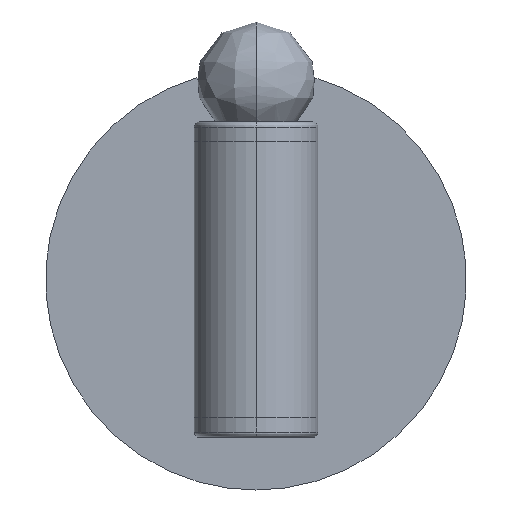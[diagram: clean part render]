
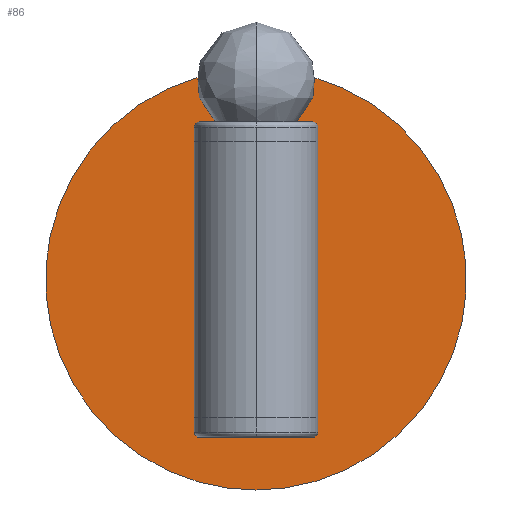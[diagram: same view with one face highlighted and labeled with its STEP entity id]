
A CAD part, front view. The second image highlights one B-rep face of the part: STEP entity #86.
In plain terms, the highlighted planar face has unit normal (0, -1, 0).
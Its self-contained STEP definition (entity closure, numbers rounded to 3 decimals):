
#86=ADVANCED_FACE('',(#211),#1998,.T.);
#211=FACE_OUTER_BOUND('',#336,.T.);
#336=EDGE_LOOP('',(#465,#466));
#465=ORIENTED_EDGE('',*,*,#1037,.T.);
#466=ORIENTED_EDGE('',*,*,#1040,.T.);
#1037=EDGE_CURVE('',#1778,#1780,#1425,.T.);
#1040=EDGE_CURVE('',#1780,#1778,#1428,.T.);
#1425=(
BOUNDED_CURVE()
B_SPLINE_CURVE(2,(#2210,#2211,#2212,#2213,#2214),.UNSPECIFIED.,.F.,.F.)
B_SPLINE_CURVE_WITH_KNOTS((3,2,3),(0.,125.664,251.327),
 .UNSPECIFIED.)
CURVE()
GEOMETRIC_REPRESENTATION_ITEM()
RATIONAL_B_SPLINE_CURVE((1.,0.707,1.,0.707,1.))
REPRESENTATION_ITEM('')
);
#1428=(
BOUNDED_CURVE()
B_SPLINE_CURVE(2,(#2222,#2223,#2224,#2225,#2226),.UNSPECIFIED.,.F.,.F.)
B_SPLINE_CURVE_WITH_KNOTS((3,2,3),(251.327,376.991,502.655),
 .UNSPECIFIED.)
CURVE()
GEOMETRIC_REPRESENTATION_ITEM()
RATIONAL_B_SPLINE_CURVE((1.,0.707,1.,0.707,1.))
REPRESENTATION_ITEM('')
);
#1778=VERTEX_POINT('',#2200);
#1780=VERTEX_POINT('',#2202);
#1998=PLANE('',#2140);
#2140=AXIS2_PLACEMENT_3D('',#2188,#2158,$);
#2158=DIRECTION('',(0.,-1.,0.));
#2188=CARTESIAN_POINT('',(-100.068,32.897,160.62));
#2200=CARTESIAN_POINT('',(-0.068,32.897,-19.38));
#2202=CARTESIAN_POINT('',(-0.068,32.897,140.62));
#2210=CARTESIAN_POINT('',(-0.068,32.897,-19.38));
#2211=CARTESIAN_POINT('',(79.932,32.897,-19.38));
#2212=CARTESIAN_POINT('',(79.932,32.897,60.62));
#2213=CARTESIAN_POINT('',(79.932,32.897,140.62));
#2214=CARTESIAN_POINT('',(-0.068,32.897,140.62));
#2222=CARTESIAN_POINT('',(-0.068,32.897,140.62));
#2223=CARTESIAN_POINT('',(-80.068,32.897,140.62));
#2224=CARTESIAN_POINT('',(-80.068,32.897,60.62));
#2225=CARTESIAN_POINT('',(-80.068,32.897,-19.38));
#2226=CARTESIAN_POINT('',(-0.068,32.897,-19.38));
